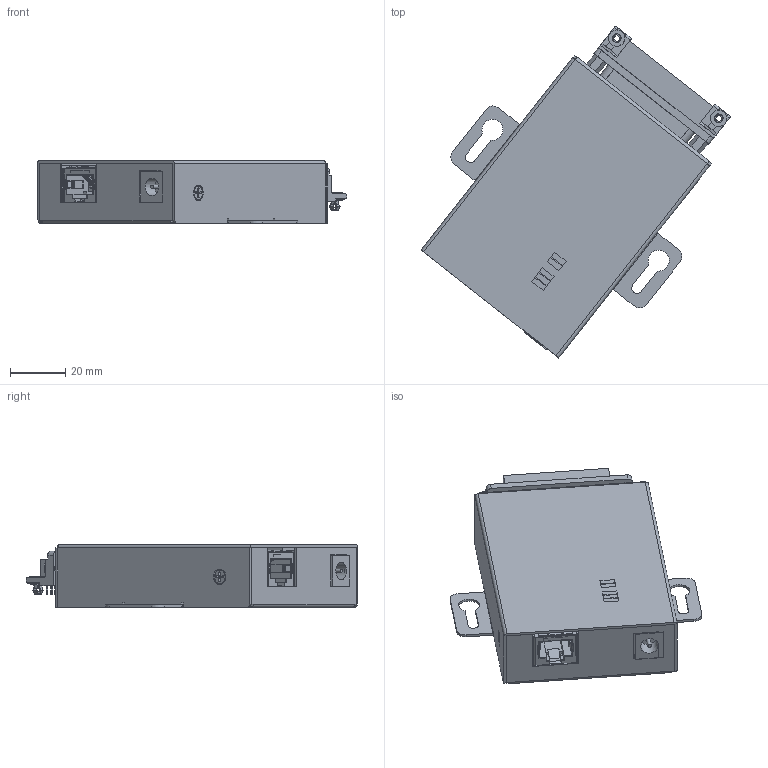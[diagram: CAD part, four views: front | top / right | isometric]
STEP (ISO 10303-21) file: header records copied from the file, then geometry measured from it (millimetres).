
FILE_DESCRIPTION((''),'2;1');
FILE_NAME('C:\Documents and Settings\ryanb\My Documents\Inventor Drawings\Step files and pictures\uds100 assy.stp','2006-10-31T10:17:13',('ryanb'),(''),'Autodesk Inventor 11','Autodesk Inventor 11','');
FILE_SCHEMA(('AUTOMOTIVE_DESIGN { 1 0 10303 214 1 1 1 1 }'));
Length unit declared in the file: inch
Products named in the file (12): uds100 assy; db25 male; 440 STANDOFF; dc barrel connector; RJ45 socket with angled pins; PART; lower chassis sub assy; lower chassis; PEM-SO_SO-6440-8_NONE; upper chassis; 8
Assembly tree (15 placements, depth 3):
  uds100 assy
    db25 male
    440 STANDOFF  x2
    dc barrel connector
    RJ45 socket with angled pins
    PART
    lower chassis sub assy
      lower chassis
      PEM-SO_SO-6440-8_NONE  x3
    upper chassis
    db25 male
    8  x2
Bounding box: 112.13 x 120.34 x 22.76 mm (x, y, z)
Volume: 35089.9 mm3; surface area: 60644.6 mm2
Topology: 14 solids, 14 shells, 1928 faces, 5339 edges, 3486 vertices
Faces by surface type: plane 1301, cylinder 540, cone 59, bspline 20, torus 8
Full cylindrical faces by diameter (mm): 1.27 x1, 2.075 x3, 2.388 x2, 2.489 x2, 2.732 x1, 2.845 x2, 3.048 x1, 4.496 x3, 4.953 x2, 5.385 x3, 6.35 x1
Entity records: 60809 total; most frequent: CARTESIAN_POINT 11442, ORIENTED_EDGE 10304, DIRECTION 10224, EDGE_CURVE 5152, VECTOR 3724, LINE 3724, VERTEX_POINT 3376, AXIS2_PLACEMENT_3D 3250
